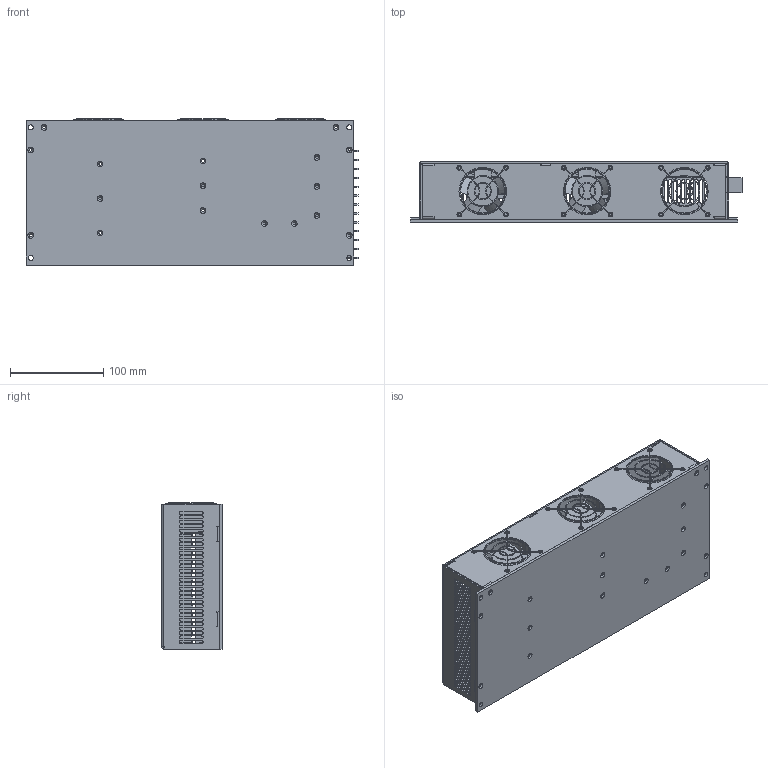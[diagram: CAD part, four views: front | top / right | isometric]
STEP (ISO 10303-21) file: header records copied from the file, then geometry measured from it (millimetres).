
FILE_DESCRIPTION (( 'STEP AP203' ), '1' );
FILE_NAME ('F4W PACKAGE.STEP', '2022-02-08T22:50:49', ( '' ), ( '' ), 'SwSTEP 2.0', 'SolidWorks 2014', '' );
FILE_SCHEMA (( 'CONFIG_CONTROL_DESIGN' ));
Length unit declared in the file: inch
Products named in the file (8): baseplate_888-015-BPL-01-A; F4W  PACKAGE; FOLDCOVER_888-015-COV-01-A; 60mmfan; 60FANGRL; FAN''S BRACKET_888-015-FNB-01-A; 12poletb; board_BSR500A
Assembly tree (10 placements, depth 2):
  F4W  PACKAGE
    FOLDCOVER_888-015-COV-01-A
    60mmfan  x2
    60FANGRL  x3
    FAN''S BRACKET_888-015-FNB-01-A
    12poletb
    board_BSR500A
    baseplate_888-015-BPL-01-A
Bounding box: 355.42 x 64.75 x 156.39 mm (x, y, z)
Volume: 477149 mm3; surface area: 438983.4 mm2
Topology: 10 solids, 10 shells, 2093 faces, 5956 edges, 3850 vertices
Faces by surface type: cylinder 1016, plane 1005, cone 40, torus 32
Entity records: 62831 total; most frequent: CARTESIAN_POINT 10918, DIRECTION 10773, ORIENTED_EDGE 10486, EDGE_CURVE 5243, AXIS2_PLACEMENT_3D 3711, VERTEX_POINT 3422, VECTOR 3351, LINE 3351
